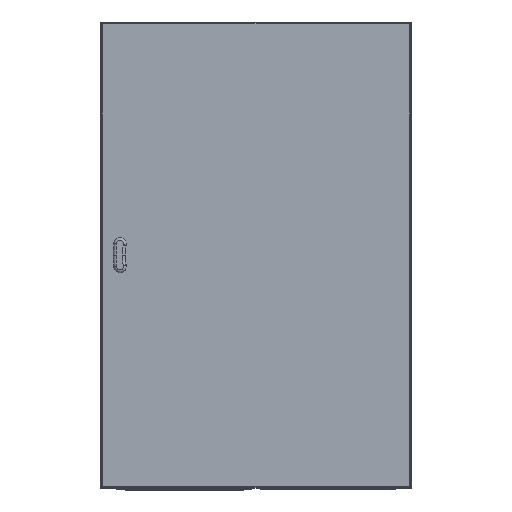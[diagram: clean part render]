
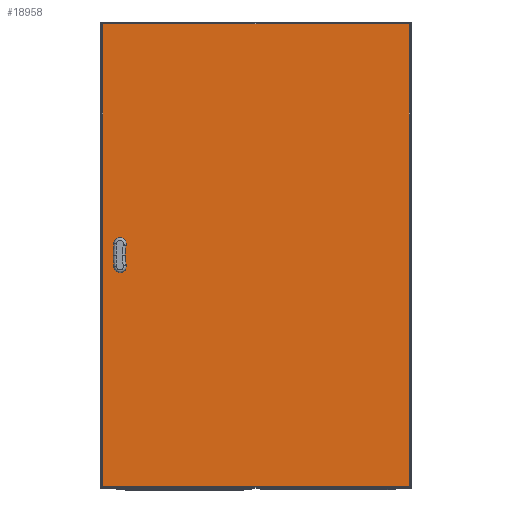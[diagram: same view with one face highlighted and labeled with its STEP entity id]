
A CAD part, top view. The second image highlights one B-rep face of the part: STEP entity #18958.
In plain terms, the highlighted planar face has unit normal (0, 0, 1) as drawn and (0, 0, -1) by its records, which use the part's own axes.
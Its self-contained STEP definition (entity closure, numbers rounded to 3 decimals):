
#202 = CARTESIAN_POINT ( 'NONE',  ( -395., -595., 0. ) ) ;
#540 = EDGE_CURVE ( 'NONE', #23784, #6911, #19830, .T. ) ;
#1215 = CARTESIAN_POINT ( 'NONE',  ( 362.5, 25., 0. ) ) ;
#1399 = DIRECTION ( 'NONE',  ( -1., 0., 0. ) ) ;
#1495 = LINE ( 'NONE', #29671, #8938 ) ;
#2447 = VERTEX_POINT ( 'NONE', #21745 ) ;
#2609 = DIRECTION ( 'NONE',  ( 1., 0., 0. ) ) ;
#2810 = ORIENTED_EDGE ( 'NONE', *, *, #17675, .T. ) ;
#3379 = EDGE_CURVE ( 'NONE', #20659, #21814, #16983, .T. ) ;
#4216 = DIRECTION ( 'NONE',  ( -1., 0., 0. ) ) ;
#4311 = EDGE_CURVE ( 'NONE', #2447, #21652, #1495, .T. ) ;
#5717 = VECTOR ( 'NONE', #24423, 1000. ) ;
#5934 = CARTESIAN_POINT ( 'NONE',  ( 337.5, 25., 0. ) ) ;
#5975 = FACE_BOUND ( 'NONE', #20812, .T. ) ;
#6221 = LINE ( 'NONE', #29054, #13952 ) ;
#6648 = CARTESIAN_POINT ( 'NONE',  ( -397.5, -595., 0. ) ) ;
#6911 = VERTEX_POINT ( 'NONE', #9569 ) ;
#8936 = CARTESIAN_POINT ( 'NONE',  ( 362.5, -25., 0. ) ) ;
#8938 = VECTOR ( 'NONE', #15466, 1000. ) ;
#9044 = ORIENTED_EDGE ( 'NONE', *, *, #9685, .F. ) ;
#9170 = EDGE_CURVE ( 'NONE', #6911, #20659, #24172, .T. ) ;
#9569 = CARTESIAN_POINT ( 'NONE',  ( 337.5, 25., 0. ) ) ;
#9685 = EDGE_CURVE ( 'NONE', #21814, #23784, #6221, .T. ) ;
#10062 = CARTESIAN_POINT ( 'NONE',  ( -395., 597.5, 0. ) ) ;
#11598 = VECTOR ( 'NONE', #4216, 1000. ) ;
#13952 = VECTOR ( 'NONE', #22414, 1000. ) ;
#15384 = ORIENTED_EDGE ( 'NONE', *, *, #29031, .T. ) ;
#15466 = DIRECTION ( 'NONE',  ( 0., -1., 0. ) ) ;
#15537 = AXIS2_PLACEMENT_3D ( 'NONE', #19723, #26802, #1399 ) ;
#16010 = VECTOR ( 'NONE', #2609, 1000. ) ;
#16460 = VERTEX_POINT ( 'NONE', #23385 ) ;
#16983 = LINE ( 'NONE', #24100, #21828 ) ;
#17014 = LINE ( 'NONE', #10062, #5717 ) ;
#17609 = CARTESIAN_POINT ( 'NONE',  ( 337.5, -25., 0. ) ) ;
#17675 = EDGE_CURVE ( 'NONE', #16460, #2447, #27861, .T. ) ;
#17856 = FACE_OUTER_BOUND ( 'NONE', #28680, .T. ) ;
#18213 = ORIENTED_EDGE ( 'NONE', *, *, #4311, .T. ) ;
#18672 = ORIENTED_EDGE ( 'NONE', *, *, #9170, .F. ) ;
#18958 = ADVANCED_FACE ( 'NONE', ( #5975, #17856 ), #22476, .T. ) ;
#19723 = CARTESIAN_POINT ( 'NONE',  ( 397.5, 597.5, 0. ) ) ;
#19733 = EDGE_CURVE ( 'NONE', #25737, #16460, #17014, .T. ) ;
#19830 = LINE ( 'NONE', #5934, #22061 ) ;
#20384 = VECTOR ( 'NONE', #26004, 1000. ) ;
#20659 = VERTEX_POINT ( 'NONE', #1215 ) ;
#20812 = EDGE_LOOP ( 'NONE', ( #24823, #9044, #28646, #18672 ) ) ;
#21175 = DIRECTION ( 'NONE',  ( 0., -1., 0. ) ) ;
#21652 = VERTEX_POINT ( 'NONE', #26520 ) ;
#21693 = CARTESIAN_POINT ( 'NONE',  ( 362.5, 25., 0. ) ) ;
#21745 = CARTESIAN_POINT ( 'NONE',  ( 395., 595., 0. ) ) ;
#21814 = VERTEX_POINT ( 'NONE', #8936 ) ;
#21828 = VECTOR ( 'NONE', #21175, 1000. ) ;
#22061 = VECTOR ( 'NONE', #24598, 1000. ) ;
#22414 = DIRECTION ( 'NONE',  ( -1., 0., 0. ) ) ;
#22476 = PLANE ( 'NONE',  #15537 ) ;
#23385 = CARTESIAN_POINT ( 'NONE',  ( -395., 595., 0. ) ) ;
#23784 = VERTEX_POINT ( 'NONE', #17609 ) ;
#24100 = CARTESIAN_POINT ( 'NONE',  ( 362.5, 25., 0. ) ) ;
#24172 = LINE ( 'NONE', #21693, #16010 ) ;
#24423 = DIRECTION ( 'NONE',  ( 0., 1., 0. ) ) ;
#24598 = DIRECTION ( 'NONE',  ( 0., 1., 0. ) ) ;
#24823 = ORIENTED_EDGE ( 'NONE', *, *, #540, .F. ) ;
#25737 = VERTEX_POINT ( 'NONE', #202 ) ;
#26004 = DIRECTION ( 'NONE',  ( 1., 0., 0. ) ) ;
#26520 = CARTESIAN_POINT ( 'NONE',  ( 395., -595., 0. ) ) ;
#26802 = DIRECTION ( 'NONE',  ( 0., 0., -1. ) ) ;
#27861 = LINE ( 'NONE', #28307, #20384 ) ;
#28245 = LINE ( 'NONE', #6648, #11598 ) ;
#28307 = CARTESIAN_POINT ( 'NONE',  ( 397.5, 595., 0. ) ) ;
#28646 = ORIENTED_EDGE ( 'NONE', *, *, #3379, .F. ) ;
#28680 = EDGE_LOOP ( 'NONE', ( #29278, #2810, #18213, #15384 ) ) ;
#29031 = EDGE_CURVE ( 'NONE', #21652, #25737, #28245, .T. ) ;
#29054 = CARTESIAN_POINT ( 'NONE',  ( 362.5, -25., 0. ) ) ;
#29278 = ORIENTED_EDGE ( 'NONE', *, *, #19733, .T. ) ;
#29671 = CARTESIAN_POINT ( 'NONE',  ( 395., -597.5, 0. ) ) ;
